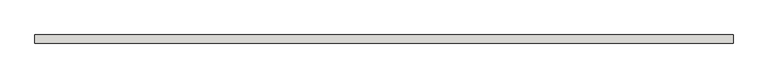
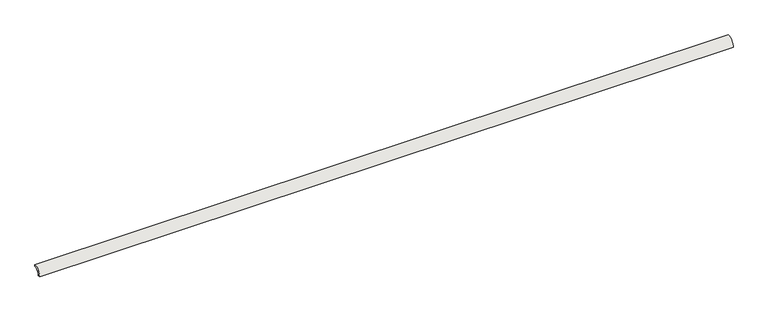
"""IFC4 building model written with IfcOpenShell, lengths in millimetres: slab geometry, ROSA GRES_183 : Pieza 183_Tao_Beige_Liso."""

from ifc_helpers import new_model, si_unit, point, frame, frame_2d, origin, origin_2d, place, context, project, spatial, polyline, circle_curve, trimmed, segment, composite_curve, outline, extrude, source, transform, mapped, element, save


def slab_1a5e02c1(model_context):
    return source(origin(), model_context, "Body", "SweptSolid", [
        extrude(outline(composite_curve([segment(polyline([(0.0, 40.0), (0.0, 30.0265886)]), True, "CONTINUOUS"), segment(trimmed(circle_curve(frame_2d((-0.0044453, 0.0044453)), 30.0221435), [point((0.0, 30.0265886))], [point((-30.0265886, 0.0))], True, "CARTESIAN"), True, "CONTINUOUS"), segment(polyline([(-30.0265886, 0.0), (-40.0, 0.0)]), True, "CONTINUOUS"), segment(trimmed(circle_curve(origin_2d(), 40.0), [point((-40.0, 0.0))], [point((0.0, 40.0))], False, "CARTESIAN"), True, "CONTINUOUS")], self_intersect=False)), frame((0.0, 0.0, 0.0), z_axis=(1.0, 0.0, 0.0), x_axis=(0.0, 1.0, 0.0)), (0.0, 0.0, 1.0), 3432.5),
    ])


if __name__ == "__main__":
    model = new_model("IFC4")
    model_context = context("Model", 3, world=origin())
    ifc_project = project(units=[si_unit("LENGTHUNIT", "METRE", prefix="MILLI")], contexts=[model_context])
    site = spatial("IfcSite", under=ifc_project)
    building = spatial("IfcBuilding", under=site)
    placement = place(None, origin())
    slab_shape = slab_1a5e02c1(model_context)
    element("IfcSlab", 1, ObjectType="ROSA GRES_183 : Pieza 183_Tao_Beige_Liso", at=placement, inside=building, context=model_context, shape_type="MappedRepresentation", body=[
        mapped(slab_shape, transform((0.0, 0.0, 0.0), x_axis=(1.0, 0.0, 0.0), y_axis=(0.0, 1.0, 0.0), z_axis=(0.0, 0.0, 1.0))),
    ])
    save(model, "model.ifc")
